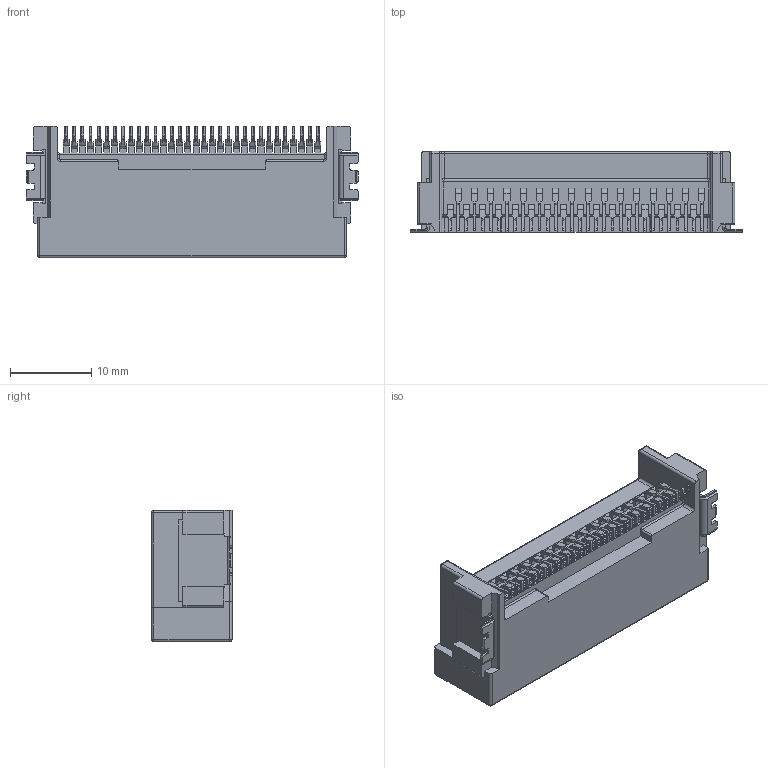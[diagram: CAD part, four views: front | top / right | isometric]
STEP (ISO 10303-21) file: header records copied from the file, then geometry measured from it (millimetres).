
FILE_DESCRIPTION (( 'STEP AP203' ), '1' );
FILE_NAME ('V0114-032_ISH HORIZONTAL MALE ASSEMBLY 32P.STEP', '2025-11-21T01:17:19', ( '' ), ( '' ), 'SwSTEP 2.0', 'SolidWorks 2023', '' );
FILE_SCHEMA (( 'CONFIG_CONTROL_DESIGN' ));
Length unit declared in the file: millimetre
Products named in the file (1): V0114-032_ISH HORIZONTAL MALE ASSEMBLY 32P
Bounding box: 40.9 x 10 x 16.2 mm (x, y, z)
Volume: 4732.3 mm3; surface area: 2551.8 mm2
Topology: 1 solids, 1 shells, 1107 faces, 3023 edges, 1940 vertices
Faces by surface type: plane 814, cylinder 201, cone 70, torus 12, sphere 10
Entity records: 34485 total; most frequent: CARTESIAN_POINT 6104, ORIENTED_EDGE 6026, DIRECTION 5701, EDGE_CURVE 3013, LINE 2529, VECTOR 2529, VERTEX_POINT 1940, AXIS2_PLACEMENT_3D 1586
